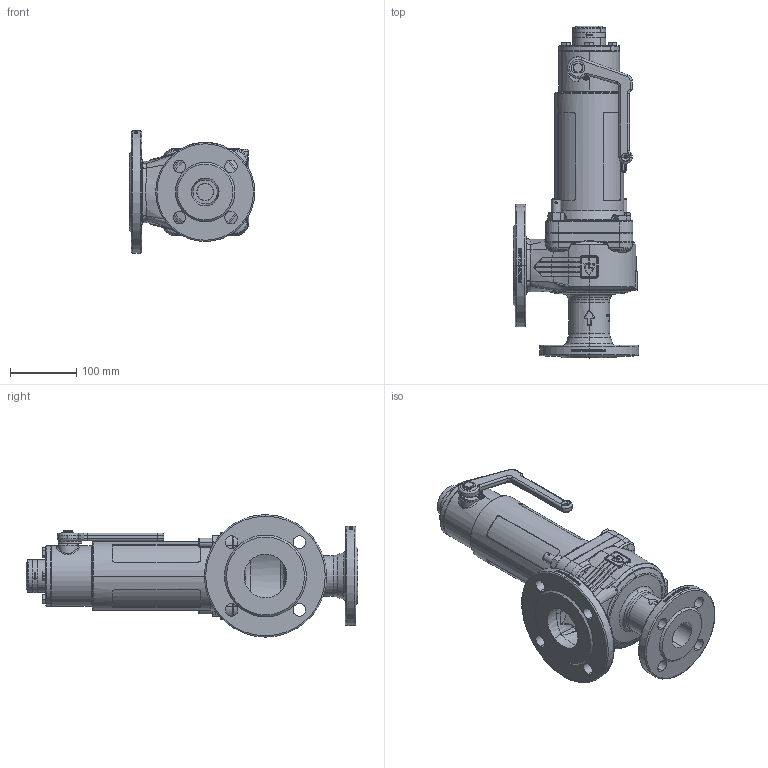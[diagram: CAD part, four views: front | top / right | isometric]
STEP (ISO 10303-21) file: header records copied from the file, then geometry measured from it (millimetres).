
FILE_DESCRIPTION (( 'STEP AP214' ), '1' );
FILE_NAME ('355tGFL_40_FLFL_4065.STEP', '2020-01-16T11:11:07', ( '' ), ( '' ), 'SwSTEP 2.0', 'SolidWorks 2018', '' );
FILE_SCHEMA (( 'AUTOMOTIVE_DESIGN' ));
Length unit declared in the file: millimetre
Products named in the file (1): 355tGFL_40_FLFL_4065
Bounding box: 190 x 502.5 x 185 mm (x, y, z)
Volume: 2446742.3 mm3; surface area: 551509.4 mm2
Topology: 22 solids, 22 shells, 2436 faces, 6497 edges, 4286 vertices
Faces by surface type: bspline 767, cylinder 639, plane 596, cone 262, torus 164, sphere 8
Entity records: 183270 total; most frequent: CARTESIAN_POINT 101141, ORIENTED_EDGE 12880, DIRECTION 9411, EDGE_CURVE 6440, VERTEX_POINT 4285, AXIS2_PLACEMENT_3D 3812, EDGE_LOOP 2755, UNCERTAINTY_MEASURE_WITH_UNIT 2460
